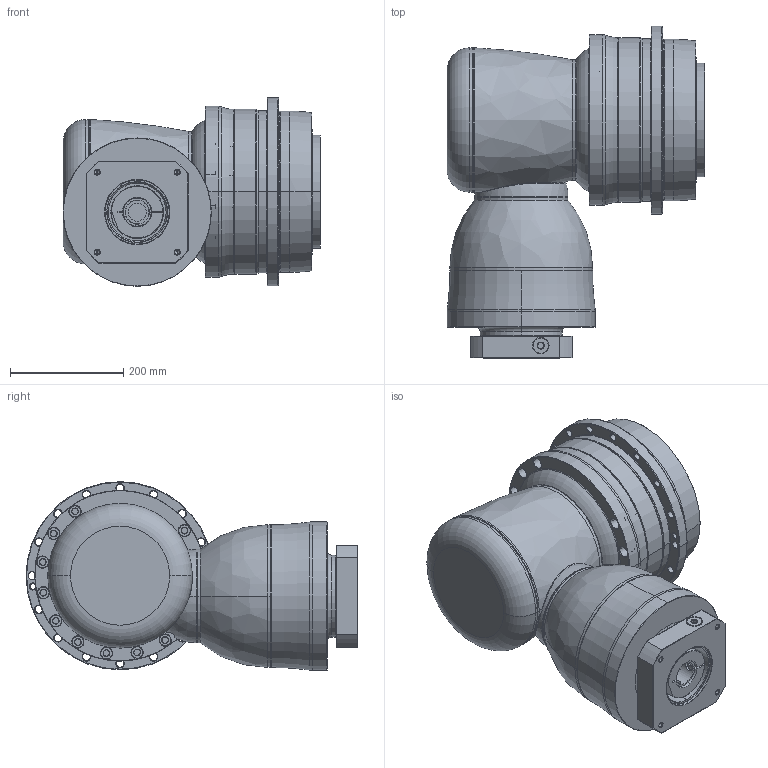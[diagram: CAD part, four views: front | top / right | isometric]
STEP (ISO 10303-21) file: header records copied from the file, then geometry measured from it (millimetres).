
FILE_DESCRIPTION((''),'2;1');
FILE_NAME('AHKB285_3ST_42-P0409A00101_ASM','2016-12-02T',('d01943'),(''),'PRO/ENGINEER BY PARAMETRIC TECHNOLOGY CORPORATION, 2008410','PRO/ENGINEER BY PARAMETRIC TECHNOLOGY CORPORATION, 2008410','');
FILE_SCHEMA(('CONFIG_CONTROL_DESIGN'));
Length unit declared in the file: millimetre
Products named in the file (12): P1008700002; P1802800001; P0278800003; P0359800003; P1315700001; P1007700001; P1317700301; P0409A00101; P0503A00012; P0912603001; 21711422019; AHKB285_3ST_42-P0409A00101_ASM
Assembly tree (11 placements, depth 2):
  AHKB285_3ST_42-P0409A00101_ASM
    P1008700002
    P1802800001
    P0278800003
    P0359800003
    P1315700001
    P1007700001
    P1317700301
    P0409A00101
    P0503A00012
    P0912603001
    21711422019
Bounding box: 455.5 x 586 x 333 mm (x, y, z)
Volume: 26842352.7 mm3; surface area: 1862979.7 mm2
Topology: 12 solids, 12 shells, 1028 faces, 2332 edges, 1345 vertices
Faces by surface type: cylinder 371, cone 362, plane 139, torus 124, bspline 30, sphere 2
Entity records: 36002 total; most frequent: CARTESIAN_POINT 12367, DIRECTION 5442, ORIENTED_EDGE 4500, AXIS2_PLACEMENT_3D 2310, EDGE_CURVE 2250, VERTEX_POINT 1345, CIRCLE 1289, EDGE_LOOP 1223
